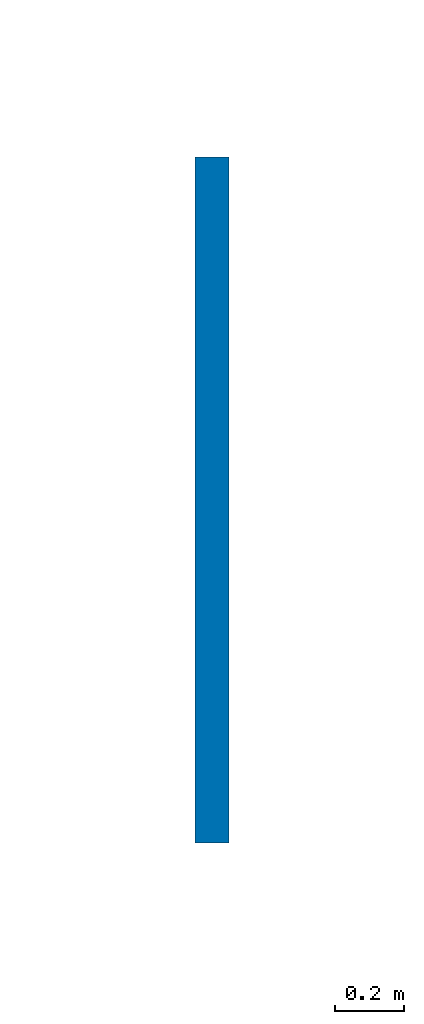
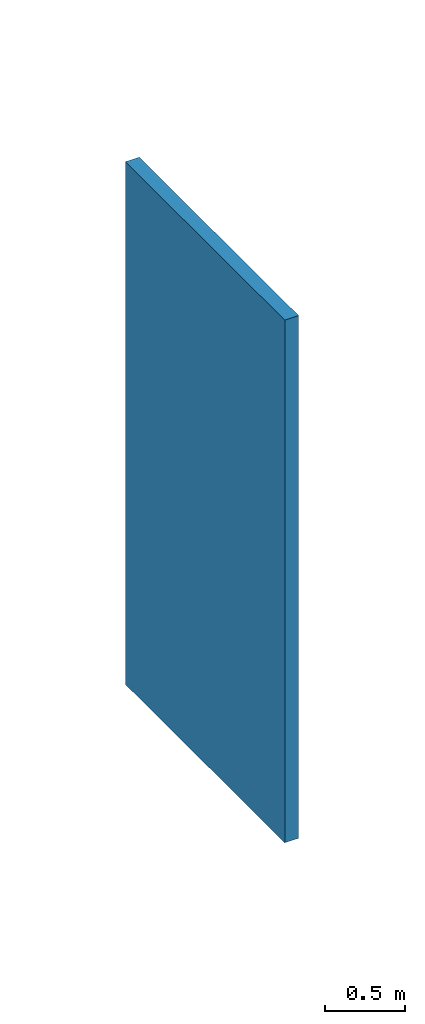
# One storey, part 35 of 164: 1 wall.
"""IFC2X3 building model written with IfcOpenShell, lengths in millimetres."""

from ifc_helpers import new_model, entity, si_unit, converted_unit, derived_unit, direction, frame, frame_2d, origin, place, context, subcontext, project, spatial, rectangle, extrude, material, layer, layer_set, layer_usage, type_object, element, save


model = new_model("IFC2X3")

# Units and contexts
model_context = context("Model", 3, precision=0.01, world=origin(), true_north=direction((6.12303176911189e-17, 1.0)))
body_context = subcontext(model_context, "Body", "Model", "MODEL_VIEW")
ifc_project = project(units=[si_unit("LENGTHUNIT", "METRE", prefix="MILLI"), si_unit("AREAUNIT", "SQUARE_METRE"), si_unit("VOLUMEUNIT", "CUBIC_METRE"), converted_unit("PLANEANGLEUNIT", "DEGREE", entity("IfcRatioMeasure", 0.0174532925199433), si_unit("PLANEANGLEUNIT", "RADIAN"), dimensions=[0, 0, 0, 0, 0, 0, 0]), si_unit("MASSUNIT", "GRAM", prefix="KILO"), derived_unit("MASSDENSITYUNIT", [(si_unit("MASSUNIT", "GRAM", prefix="KILO"), 1), (si_unit("LENGTHUNIT", "METRE"), -3)]), derived_unit("MOMENTOFINERTIAUNIT", [(si_unit("LENGTHUNIT", "METRE"), 4)]), si_unit("TIMEUNIT", "SECOND"), si_unit("FREQUENCYUNIT", "HERTZ"), si_unit("THERMODYNAMICTEMPERATUREUNIT", "DEGREE_CELSIUS"), derived_unit("THERMALTRANSMITTANCEUNIT", [(si_unit("MASSUNIT", "GRAM", prefix="KILO"), 1), (si_unit("THERMODYNAMICTEMPERATUREUNIT", "KELVIN"), -1), (si_unit("TIMEUNIT", "SECOND"), -3)]), derived_unit("VOLUMETRICFLOWRATEUNIT", [(si_unit("LENGTHUNIT", "METRE"), 3), (si_unit("TIMEUNIT", "SECOND"), -1)]), si_unit("ELECTRICCURRENTUNIT", "AMPERE"), si_unit("ELECTRICVOLTAGEUNIT", "VOLT"), si_unit("POWERUNIT", "WATT"), si_unit("FORCEUNIT", "NEWTON", prefix="KILO"), si_unit("ILLUMINANCEUNIT", "LUX"), si_unit("LUMINOUSFLUXUNIT", "LUMEN"), si_unit("LUMINOUSINTENSITYUNIT", "CANDELA"), derived_unit("USERDEFINED", [(si_unit("MASSUNIT", "GRAM", prefix="KILO"), -1), (si_unit("LENGTHUNIT", "METRE"), -2), (si_unit("TIMEUNIT", "SECOND"), 3), (si_unit("LUMINOUSFLUXUNIT", "LUMEN"), 1)]), derived_unit("LINEARVELOCITYUNIT", [(si_unit("LENGTHUNIT", "METRE"), 1), (si_unit("TIMEUNIT", "SECOND"), -1)]), si_unit("PRESSUREUNIT", "PASCAL"), derived_unit("USERDEFINED", [(si_unit("LENGTHUNIT", "METRE"), -2), (si_unit("MASSUNIT", "GRAM", prefix="KILO"), 1), (si_unit("TIMEUNIT", "SECOND"), -2)]), derived_unit("LINEARFORCEUNIT", [(si_unit("MASSUNIT", "GRAM", prefix="KILO"), 1), (si_unit("LENGTHUNIT", "METRE"), 1), (si_unit("TIMEUNIT", "SECOND"), -2), (si_unit("LENGTHUNIT", "METRE"), -1)]), derived_unit("PLANARFORCEUNIT", [(si_unit("MASSUNIT", "GRAM", prefix="KILO"), 1), (si_unit("LENGTHUNIT", "METRE"), 1), (si_unit("TIMEUNIT", "SECOND"), -2), (si_unit("LENGTHUNIT", "METRE"), -2)])], contexts=[model_context])

# Site, building, storey
site_placement = place(None, origin())
site = spatial("IfcSite", under=ifc_project, at=site_placement, Name="Default", CompositionType="ELEMENT")
building_placement = place(site_placement, origin())
building = spatial("IfcBuilding", under=site, at=building_placement, CompositionType="ELEMENT")
storey_placement = place(building_placement, origin())
storey = spatial("IfcBuildingStorey", under=building, at=storey_placement, Name="Level 1", CompositionType="ELEMENT", Elevation=0.0)

# Wall
ifc_material = material(Name="Default Wall")
ifc_layer = layer(ifc_material, 100.0)
ifc_layer_set = layer_set([ifc_layer], Name="Basic Wall:Generic - 100mm")
ifc_layer_usage = layer_usage(ifc_layer_set, "AXIS2", "NEGATIVE", 50.0)
wall_type = type_object("IfcWallType", Name="Basic Wall:Generic - 100mm", PredefinedType="STANDARD", material=ifc_layer_set)
wall_placement = place(storey_placement, frame((500050.0, 701000.0, 0.0), z_axis=(0.0, 0.0, 1.0), x_axis=(0.0, -1.0, 0.0)))
element("IfcWallStandardCase", 1, at=wall_placement, inside=storey, type_object=wall_type, material=ifc_layer_usage, Name="Basic Wall:Generic - 100mm", ObjectType="Basic Wall:Generic - 100mm", context=body_context, shape_type="SweptSolid", body=[
    extrude(rectangle(XDim=2000.0000000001, YDim=100.000000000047, at=frame_2d((1000.00000000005, 1.60582658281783e-12), x_axis=(-1.0, 0.0))), origin(), (0.0, 0.0, 1.0), 4000.0),
])

save(model, "model.ifc")
